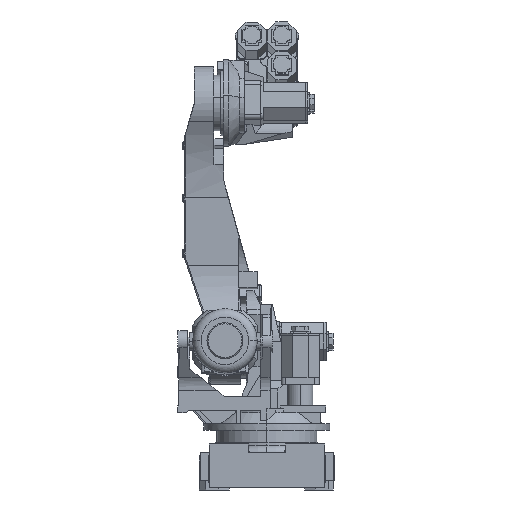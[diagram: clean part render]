
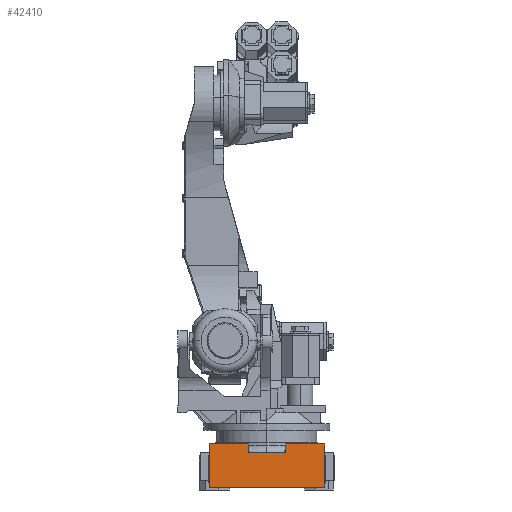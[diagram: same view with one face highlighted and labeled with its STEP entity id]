
A CAD part, left-side view. The second image highlights one B-rep face of the part: STEP entity #42410.
In plain terms, the highlighted planar face has unit normal (-1, 0, 0).
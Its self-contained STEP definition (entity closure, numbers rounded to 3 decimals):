
#1441 = CARTESIAN_POINT ( 'NONE',  ( -423., 260., -785.356 ) ) ;
#2475 = VERTEX_POINT ( 'NONE', #23041 ) ;
#3035 = CARTESIAN_POINT ( 'NONE',  ( -423., -85., 169. ) ) ;
#3766 = VECTOR ( 'NONE', #25369, 1000. ) ;
#5137 = EDGE_LOOP ( 'NONE', ( #61912, #12887, #45320, #44833, #23875, #17161, #30003, #20098 ) ) ;
#6719 = CARTESIAN_POINT ( 'NONE',  ( -423., 260., 207.5 ) ) ;
#8557 = CARTESIAN_POINT ( 'NONE',  ( -423., -85., 207.5 ) ) ;
#8624 = VECTOR ( 'NONE', #57717, 1000. ) ;
#10586 = CARTESIAN_POINT ( 'NONE',  ( -423., -85., 169. ) ) ;
#12853 = EDGE_CURVE ( 'NONE', #34383, #2475, #16985, .T. ) ;
#12887 = ORIENTED_EDGE ( 'NONE', *, *, #52158, .F. ) ;
#14628 = DIRECTION ( 'NONE',  ( 0., -1., 0. ) ) ;
#16985 = LINE ( 'NONE', #20993, #3766 ) ;
#17161 = ORIENTED_EDGE ( 'NONE', *, *, #58664, .T. ) ;
#17210 = EDGE_CURVE ( 'NONE', #33833, #34383, #18288, .T. ) ;
#18288 = LINE ( 'NONE', #1441, #63975 ) ;
#18316 = VERTEX_POINT ( 'NONE', #10586 ) ;
#18676 = VECTOR ( 'NONE', #34926, 1000. ) ;
#18886 = LINE ( 'NONE', #43062, #63851 ) ;
#19008 = AXIS2_PLACEMENT_3D ( 'NONE', #51532, #21406, #50888 ) ;
#19333 = CARTESIAN_POINT ( 'NONE',  ( -423., 300., 10. ) ) ;
#19450 = LINE ( 'NONE', #23641, #8624 ) ;
#19694 = EDGE_CURVE ( 'NONE', #40650, #55542, #19450, .T. ) ;
#20098 = ORIENTED_EDGE ( 'NONE', *, *, #42759, .F. ) ;
#20316 = DIRECTION ( 'NONE',  ( 0., 0., 1. ) ) ;
#20993 = CARTESIAN_POINT ( 'NONE',  ( -423., 900., 207.5 ) ) ;
#21406 = DIRECTION ( 'NONE',  ( 1., 0., 0. ) ) ;
#22732 = CARTESIAN_POINT ( 'NONE',  ( -423., 85., -797.287 ) ) ;
#23041 = CARTESIAN_POINT ( 'NONE',  ( -423., 85., 207.5 ) ) ;
#23641 = CARTESIAN_POINT ( 'NONE',  ( -423., -260., -785.356 ) ) ;
#23875 = ORIENTED_EDGE ( 'NONE', *, *, #17210, .F. ) ;
#24921 = DIRECTION ( 'NONE',  ( 0., 0., 1. ) ) ;
#25369 = DIRECTION ( 'NONE',  ( 0., -1., 0. ) ) ;
#27195 = LINE ( 'NONE', #19333, #18676 ) ;
#30003 = ORIENTED_EDGE ( 'NONE', *, *, #19694, .T. ) ;
#33417 = CARTESIAN_POINT ( 'NONE',  ( -423., 260., 10. ) ) ;
#33833 = VERTEX_POINT ( 'NONE', #33417 ) ;
#34383 = VERTEX_POINT ( 'NONE', #6719 ) ;
#34926 = DIRECTION ( 'NONE',  ( 0., -1., 0. ) ) ;
#37514 = DIRECTION ( 'NONE',  ( 0., -1., 0. ) ) ;
#37695 = DIRECTION ( 'NONE',  ( 0., 0., 1. ) ) ;
#37716 = CARTESIAN_POINT ( 'NONE',  ( -423., -260., 10. ) ) ;
#40184 = VERTEX_POINT ( 'NONE', #54580 ) ;
#40650 = VERTEX_POINT ( 'NONE', #37716 ) ;
#42133 = VECTOR ( 'NONE', #24921, 1000. ) ;
#42410 = ADVANCED_FACE ( 'NONE', ( #51476 ), #46541, .F. ) ;
#42759 = EDGE_CURVE ( 'NONE', #63354, #55542, #18886, .T. ) ;
#43062 = CARTESIAN_POINT ( 'NONE',  ( -423., 900., 207.5 ) ) ;
#43419 = VECTOR ( 'NONE', #37514, 1000. ) ;
#44833 = ORIENTED_EDGE ( 'NONE', *, *, #12853, .F. ) ;
#45320 = ORIENTED_EDGE ( 'NONE', *, *, #49610, .T. ) ;
#46541 = PLANE ( 'NONE',  #19008 ) ;
#47590 = EDGE_CURVE ( 'NONE', #18316, #63354, #48352, .T. ) ;
#48352 = LINE ( 'NONE', #53976, #42133 ) ;
#49610 = EDGE_CURVE ( 'NONE', #40184, #2475, #62194, .T. ) ;
#50888 = DIRECTION ( 'NONE',  ( 0., 1., 0. ) ) ;
#51208 = LINE ( 'NONE', #3035, #43419 ) ;
#51476 = FACE_OUTER_BOUND ( 'NONE', #5137, .T. ) ;
#51532 = CARTESIAN_POINT ( 'NONE',  ( -423., 300., 169. ) ) ;
#52158 = EDGE_CURVE ( 'NONE', #40184, #18316, #51208, .T. ) ;
#53976 = CARTESIAN_POINT ( 'NONE',  ( -423., -85., -797.287 ) ) ;
#54580 = CARTESIAN_POINT ( 'NONE',  ( -423., 85., 169. ) ) ;
#55542 = VERTEX_POINT ( 'NONE', #63100 ) ;
#57717 = DIRECTION ( 'NONE',  ( 0., 0., 1. ) ) ;
#58664 = EDGE_CURVE ( 'NONE', #33833, #40650, #27195, .T. ) ;
#61912 = ORIENTED_EDGE ( 'NONE', *, *, #47590, .F. ) ;
#62194 = LINE ( 'NONE', #22732, #63001 ) ;
#63001 = VECTOR ( 'NONE', #37695, 1000. ) ;
#63100 = CARTESIAN_POINT ( 'NONE',  ( -423., -260., 207.5 ) ) ;
#63354 = VERTEX_POINT ( 'NONE', #8557 ) ;
#63851 = VECTOR ( 'NONE', #14628, 1000. ) ;
#63975 = VECTOR ( 'NONE', #20316, 1000. ) ;
